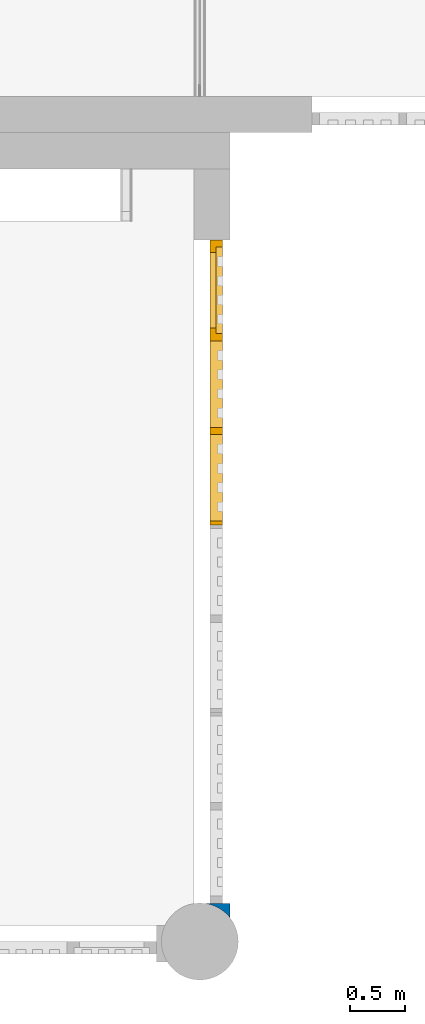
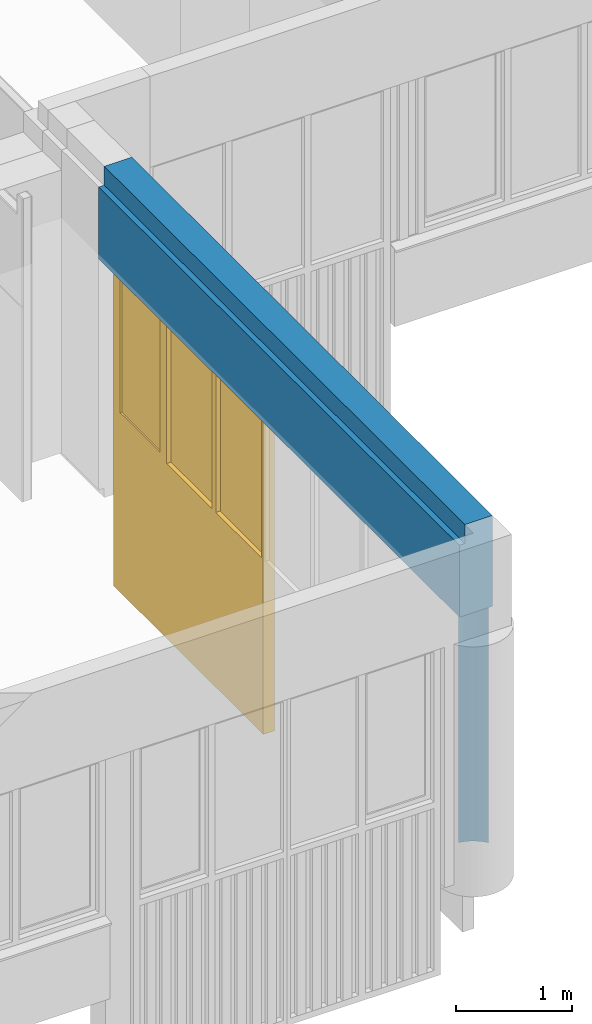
# One storey, part 43 of 99: 1 wall, 1 window, 3 openings.
"""IFC2X3 building model written with IfcOpenShell, lengths in millimetres."""

from ifc_helpers import new_model, entity, si_unit, converted_unit, derived_unit, money_unit, direction, frame, origin_with_axes, place, context, subcontext, project, spatial, open_shell, faceted_brep, surface_model, material, type_object, element, fill, save


model = new_model("IFC2X3")

# Units and contexts
model_context = context("Model", 3, precision=0.01, world=origin_with_axes(), true_north=direction((0.0, 1.0)))
body_context = subcontext(model_context, "Body", "Model", "MODEL_VIEW")
ifc_project = project(units=[si_unit("LENGTHUNIT", "METRE", prefix="MILLI"), si_unit("AREAUNIT", "SQUARE_METRE"), si_unit("VOLUMEUNIT", "CUBIC_METRE"), converted_unit("PLANEANGLEUNIT", "DEGREE", entity("IfcPlaneAngleMeasure", 0.0174532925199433), si_unit("PLANEANGLEUNIT", "RADIAN"), dimensions=[0, 0, 0, 0, 0, 0, 0]), money_unit("EUR"), converted_unit("TIMEUNIT", "Year", entity("IfcTimeMeasure", 31557600.0), si_unit("TIMEUNIT", "SECOND"), dimensions=[0, 0, 1, 0, 0, 0, 0]), si_unit("MASSUNIT", "GRAM", prefix="KILO"), si_unit("THERMODYNAMICTEMPERATUREUNIT", "DEGREE_CELSIUS"), si_unit("LUMINOUSINTENSITYUNIT", "LUMEN"), si_unit("ENERGYUNIT", "JOULE", prefix="MEGA"), derived_unit("THERMALCONDUCTANCEUNIT", [(si_unit("POWERUNIT", "WATT"), 1), (si_unit("LENGTHUNIT", "METRE"), -1), (si_unit("THERMODYNAMICTEMPERATUREUNIT", "KELVIN"), -1)]), derived_unit("SPECIFICHEATCAPACITYUNIT", [(si_unit("ENERGYUNIT", "JOULE"), 1), (si_unit("MASSUNIT", "GRAM", prefix="KILO"), -1), (si_unit("THERMODYNAMICTEMPERATUREUNIT", "KELVIN"), -1)]), derived_unit("MASSDENSITYUNIT", [(si_unit("MASSUNIT", "GRAM", prefix="KILO"), 1), (si_unit("VOLUMEUNIT", "CUBIC_METRE"), -1)])], contexts=[model_context])

# Site, building, storey
site_placement = place(None, origin_with_axes())
site = spatial("IfcSite", under=ifc_project, at=site_placement, Name="Site", CompositionType="ELEMENT")
building_placement = place(site_placement, origin_with_axes())
building = spatial("IfcBuilding", under=site, at=building_placement, Name="Naam gebouw", CompositionType="ELEMENT")
storey_placement = place(building_placement, frame((0.0, 0.0, 7650.0), z_axis=(0.0, 0.0, 1.0), x_axis=(1.0, 0.0, 0.0)))
storey = spatial("IfcBuildingStorey", under=building, at=storey_placement, Name="2e verdieping N", CompositionType="ELEMENT", Elevation=7650.0)

# Wall, openings, window
ifc_material = material(Name="ALG - CONSTRUCTIEF")
wall_type = type_object("IfcWallType", Name="ALG - CONSTRUCTIEF 330", PredefinedType="NOTDEFINED")
wall_placement = place(storey_placement, frame((32345.47026007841, 9685.94968985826, -99.99999999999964), z_axis=(0.0, 0.0, 1.0), x_axis=(0.0, -1.0, 0.0)))
wall = element("IfcWall", 1, at=wall_placement, inside=storey, type_object=wall_type, material=ifc_material, Name="_Wand-x", context=body_context, shape_type="Brep", body=[
    faceted_brep([(6039.999999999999, 107.6103989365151, 2540.000000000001), (6039.28855375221, 104.3399333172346, 2540.000000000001), (6035.726058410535, 54.52973992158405, 2540.000000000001), (6039.28855375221, 4.719546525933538, 2540.000000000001), (6039.999999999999, 1.449080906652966, 2540.000000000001), (6039.999999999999, 0.0, 2540.000000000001), (4299.928571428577, 0.0, 2540.000000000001), (-5.482205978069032e-05, 0.0, 2540.000000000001), (-5.482205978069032e-05, 329.9999999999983, 2540.000000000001), (6039.999999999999, 329.9999999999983, 2540.000000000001), (6049.903517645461, 153.1361348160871, 2540.000000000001), (6067.354860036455, 199.9249944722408, 2540.000000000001), (6091.287321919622, 243.7540260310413, 2540.000000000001), (6121.213707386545, 283.7309968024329, 2540.000000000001), (6156.524801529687, 319.0420909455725, 2540.000000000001), (6171.162854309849, 329.9999999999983, 2540.000000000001), (6240.280982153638, 329.9999999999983, 2540.000000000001), (6240.283294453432, 0.0, 2540.000000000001), (6040.314734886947, 0.002267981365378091, 2540.000000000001), (6039.999999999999, 1.446407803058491, 820.0000000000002), (6039.999999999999, 0.002267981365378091, 820.0000000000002), (6040.000582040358, 0.002267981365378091, 99.99999999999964), (6040.314735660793, 0.00226442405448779, 99.99999999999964), (6240.280982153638, 0.0, 3299.999999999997), (0.0, 0.0, 3299.999999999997), (-5.482206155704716e-05, 54.52973992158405, 3299.999999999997), (0.0, 54.52973992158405, 3500.0), (0.0, 329.9999999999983, 3500.0), (6171.16285430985, 329.9999999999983, 0.0), (6039.999999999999, 329.9999999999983, 0.0), (6240.280982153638, 329.9999999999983, 3500.0), (6039.999999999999, 259.999999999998, 0.0), (6039.999999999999, 146.002267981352, 0.0), (6039.999999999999, 146.002267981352, 820.0000000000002), (6039.999999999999, 107.6128887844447, 820.0000000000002), (6040.000541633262, 107.6128887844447, 0.0), (6049.903517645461, 153.1361348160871, 0.0), (6067.354860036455, 199.9249944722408, 0.0), (6091.287321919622, 243.7540260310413, 0.0), (6121.213707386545, 283.7309968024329, 0.0), (6156.524801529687, 319.0420909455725, 0.0), (6240.280982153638, 54.52973992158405, 3500.0), (6240.280982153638, 54.52973992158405, 3299.999999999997), (6040.000581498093, 1.446407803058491, 99.99999999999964)], [[[0, 1, 2, 3, 4, 5, 6, 7, 8, 9]], [[1, 0, 10, 11, 12, 13, 14, 15, 16, 17, 18, 4, 3, 2]], [[4, 19, 20, 5]], [[5, 20, 21, 22, 18, 17, 23, 24, 7, 6]], [[7, 24, 25, 26, 27, 8]], [[16, 15, 28, 29, 9, 8, 27, 30]], [[31, 32, 33, 34, 0, 9, 29]], [[0, 34, 35, 36, 10]], [[37, 11, 10, 36]], [[38, 12, 11, 37]], [[39, 13, 12, 38]], [[40, 14, 13, 39]], [[15, 14, 40, 28]], [[23, 17, 16, 30, 41, 42]], [[19, 4, 18, 22, 43]], [[20, 19, 43, 21]], [[21, 43, 22]], [[25, 24, 23, 42]], [[41, 26, 25, 42]], [[26, 41, 30, 27]], [[32, 31, 29, 28, 40, 39, 38, 37, 36, 35]], [[33, 32, 35, 34]]]),
])
opening_1_placement = place(wall_placement, frame((1296.678544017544, 0.0, -959.9999999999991), z_axis=(0.0, 0.0, 1.0), x_axis=(1.0, 0.0, 0.0)))
opening_1 = element("IfcOpeningElement", 2, at=opening_1_placement, cuts=wall, Name="_Merk-056", context=body_context, shape_type="Brep", body=[
    faceted_brep([(-1296.678598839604, 259.999999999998, -1060.0), (-1296.678598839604, 259.999999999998, 3500.0), (-1296.678598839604, 330.999999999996, 3500.0), (-1296.678598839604, 330.999999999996, -1060.0), (-1296.678598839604, -0.9999999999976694, -1060.0), (-1296.678598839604, -0.9999999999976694, 3500.0), (1296.678598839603, 259.999999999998, 3500.0), (1296.678598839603, 330.999999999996, 3500.0), (1296.678598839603, -0.9999999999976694, 3500.0), (1296.678598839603, 330.999999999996, -1060.0), (1296.678598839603, 259.999999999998, -1060.0), (1296.678598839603, -0.9999999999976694, -1060.0)], [[[0, 1, 2, 3]], [[1, 0, 4, 5]], [[6, 7, 2, 1, 5, 8]], [[7, 9, 3, 2]], [[0, 3, 9, 10, 11, 4]], [[5, 4, 11, 8]], [[6, 10, 9, 7]], [[10, 6, 8, 11]]]),
])
opening_2_placement = place(wall_placement, frame((3446.642857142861, 0.0, -959.9999999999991), z_axis=(0.0, 0.0, 1.0), x_axis=(1.0, 0.0, 0.0)))
element("IfcOpeningElement", 3, at=opening_2_placement, cuts=wall, Name="_Merk-057", context=body_context, shape_type="Brep", body=[
    faceted_brep([(-853.2857142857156, 259.999999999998, -1060.0), (-853.2857142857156, 259.999999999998, 3500.0), (-853.2857142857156, 330.999999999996, 3500.0), (-853.2857142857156, 330.999999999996, -1060.0), (-853.2857142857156, -0.9999999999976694, -1060.0), (-853.2857142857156, -0.9999999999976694, 3500.0), (853.2857142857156, 259.999999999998, 3500.0), (853.2857142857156, 330.999999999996, 3500.0), (853.2857142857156, -0.9999999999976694, 3500.0), (853.2857142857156, 330.999999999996, -1060.0), (853.2857142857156, 259.999999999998, -1060.0), (853.2857142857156, -0.9999999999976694, -1060.0)], [[[0, 1, 2, 3]], [[1, 0, 4, 5]], [[6, 7, 2, 1, 5, 8]], [[7, 9, 3, 2]], [[0, 3, 9, 10, 11, 4]], [[5, 4, 11, 8]], [[6, 10, 9, 7]], [[10, 6, 8, 11]]]),
])
opening_3_placement = place(wall_placement, frame((5169.964285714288, 0.0, -959.9999999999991), z_axis=(0.0, 0.0, 1.0), x_axis=(1.0, 0.0, 0.0)))
element("IfcOpeningElement", 4, at=opening_3_placement, cuts=wall, Name="_Merk-057", context=body_context, shape_type="Brep", body=[
    faceted_brep([(-870.0357142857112, 259.999999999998, -1060.0), (-870.0357142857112, 259.999999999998, 3500.0), (-870.0357142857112, 330.999999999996, 3500.0), (-870.0357142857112, 330.999999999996, -1060.0), (-870.0357142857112, -0.9999999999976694, -1060.0), (-870.0357142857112, -0.9999999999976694, 3500.0), (870.0357142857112, 259.999999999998, 3500.0), (870.0357142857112, 330.999999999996, 3500.0), (870.0357142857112, -0.9999999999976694, 3500.0), (870.0357142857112, 330.999999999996, -1060.0), (870.0357142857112, 259.999999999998, -1060.0), (870.0357142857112, -0.9999999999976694, -1060.0)], [[[0, 1, 2, 3]], [[1, 0, 4, 5]], [[6, 7, 2, 1, 5, 8]], [[7, 9, 3, 2]], [[0, 3, 9, 10, 11, 4]], [[5, 4, 11, 8]], [[6, 10, 9, 7]], [[10, 6, 8, 11]]]),
])
window_style = type_object("IfcWindowStyle", Name="R3 bl ol 26", ConstructionType="NOTDEFINED", OperationType="USERDEFINED", ParameterTakesPrecedence=False, Sizeable=False)
window_placement = place(opening_1_placement, frame((1296.678598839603, 0.0, 0.0), z_axis=(0.0, 0.0, 1.0), x_axis=(-1.0, 0.0, 0.0)))
window = element("IfcWindow", 5, at=window_placement, inside=storey, type_object=window_style, Name="_Merk-056", ObjectType="WINDOW", OverallHeight=3500.0, OverallWidth=2593.36, context=body_context, shape_type="SurfaceModel", body=[
    faceted_brep([(2526.357197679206, -200.0000000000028, 3433.0), (2526.357197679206, -260.0000000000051, 3433.0), (2593.357197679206, -260.0000000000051, 3433.0), (2593.357197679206, -146.0000000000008, 3433.0), (2543.357197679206, -146.0000000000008, 3433.0), (2543.357197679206, -200.0000000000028, 3433.0), (2526.357197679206, -200.0000000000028, 1847.000000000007), (2526.357197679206, -259.999999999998, 1847.000000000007), (2593.357197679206, -259.999999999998, 67.00000000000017), (2526.357197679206, -259.999999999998, 1780.000000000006), (2526.357197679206, -259.999999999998, 67.00000000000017), (2593.357197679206, -146.0000000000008, 67.00000000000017), (2543.357197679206, -146.0000000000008, 1830.000000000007), (2526.357197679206, -146.0000000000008, 67.00000000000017), (2526.357197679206, -146.0000000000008, 1780.000000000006), (2526.357197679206, -146.0000000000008, 1830.000000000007), (2543.357197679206, -200.0000000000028, 1830.000000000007), (2526.357197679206, -200.0000000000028, 1830.000000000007)], [[[0, 1, 2, 3, 4, 5]], [[6, 7, 1, 0]], [[8, 2, 1, 7, 9, 10]], [[11, 3, 2, 8]], [[12, 4, 3, 11, 13, 14, 15]], [[12, 16, 5, 4]], [[5, 16, 17, 6, 0]], [[17, 15, 14, 9, 7, 6]], [[14, 13, 10, 9]], [[13, 11, 8, 10]], [[15, 17, 16, 12]]]),
    faceted_brep([(1723.07146511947, -146.0000000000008, 3433.0), (1673.071465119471, -146.0000000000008, 3433.0), (1673.071465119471, -259.999999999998, 3433.0), (1740.071465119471, -259.999999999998, 3433.0), (1740.071465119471, -200.0000000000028, 3433.0), (1723.07146511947, -200.0000000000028, 3433.0), (1723.07146511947, -146.0000000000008, 1830.000000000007), (1740.071465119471, -146.0000000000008, 1830.000000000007), (1740.071465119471, -146.0000000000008, 1780.000000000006), (1740.071465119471, -146.0000000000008, 67.00000000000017), (1673.071465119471, -146.0000000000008, 67.00000000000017), (1673.071465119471, -146.0000000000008, 1780.000000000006), (1673.071465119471, -146.0000000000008, 1847.000000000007), (1673.071465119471, -259.999999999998, 1847.000000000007), (1673.071465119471, -259.999999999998, 1780.000000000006), (1673.071465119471, -259.999999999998, 67.00000000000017), (1740.071465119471, -259.999999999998, 67.00000000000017), (1740.071465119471, -259.999999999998, 1780.000000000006), (1740.071465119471, -259.999999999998, 1847.000000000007), (1740.071465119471, -200.0000000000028, 1847.000000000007), (1740.071465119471, -200.0000000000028, 1830.000000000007), (1723.07146511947, -200.0000000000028, 1830.000000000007)], [[[0, 1, 2, 3, 4, 5]], [[6, 7, 8, 9, 10, 11, 12, 1, 0]], [[1, 12, 13, 2]], [[14, 15, 16, 17, 18, 3, 2, 13]], [[4, 3, 18, 19]], [[19, 20, 21, 5, 4]], [[5, 21, 6, 0]], [[6, 21, 20, 7]], [[20, 19, 18, 17, 8, 7]], [[9, 8, 17, 16]], [[10, 9, 16, 15]], [[11, 10, 15, 14]], [[12, 11, 14, 13]]]),
    faceted_brep([(1740.071465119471, -200.0000000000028, 1847.000000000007), (1740.071465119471, -259.999999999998, 1847.000000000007), (2526.357197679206, -259.999999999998, 1847.000000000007), (2526.357197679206, -200.0000000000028, 1847.000000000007), (1740.071465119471, -200.0000000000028, 1830.000000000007), (1740.071465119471, -146.0000000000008, 1830.000000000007), (1740.071465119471, -146.0000000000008, 1780.000000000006), (1740.071465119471, -259.999999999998, 1780.000000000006), (2526.357197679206, -259.999999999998, 1780.000000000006), (2526.357197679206, -200.0000000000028, 1830.000000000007), (2526.357197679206, -146.0000000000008, 1780.000000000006), (2526.357197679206, -146.0000000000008, 1830.000000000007)], [[[0, 1, 2, 3]], [[4, 5, 6, 7, 1, 0]], [[7, 8, 2, 1]], [[9, 3, 2, 8, 10, 11]], [[9, 4, 0, 3]], [[5, 4, 9, 11]], [[11, 10, 6, 5]], [[6, 10, 8, 7]]]),
    faceted_brep([(1723.07146511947, -146.0000000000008, 3433.0), (1673.071465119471, -146.0000000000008, 3433.0), (886.7857325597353, -146.0000000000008, 3433.0), (819.785732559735, -146.0000000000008, 3433.0), (33.50000000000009, -146.0000000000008, 3433.0), (0.0, -146.0000000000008, 3433.0), (0.0, -146.0000000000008, 3500.0), (2593.357197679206, -146.0000000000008, 3500.0), (2593.357197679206, -146.0000000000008, 3433.0), (2543.357197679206, -146.0000000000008, 3433.0), (2543.357197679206, -146.0000000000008, 3449.999999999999), (1723.07146511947, -146.0000000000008, 3449.999999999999), (1723.07146511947, -200.0000000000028, 3433.0), (1740.071465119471, -200.0000000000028, 3433.0), (1740.071465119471, -259.999999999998, 3433.0), (1673.071465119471, -259.999999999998, 3433.0), (886.7857325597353, -259.999999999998, 3433.0), (819.785732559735, -259.999999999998, 3433.0), (33.50000000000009, -259.999999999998, 3433.0), (0.0, -259.999999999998, 3433.0), (0.0, -259.999999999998, 3500.0), (2593.357197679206, -260.0000000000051, 3500.0), (2593.357197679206, -260.0000000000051, 3433.0), (2543.357197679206, -200.0000000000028, 3433.0), (2526.357197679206, -260.0000000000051, 3433.0), (2526.357197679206, -200.0000000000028, 3433.0), (2543.357197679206, -200.0000000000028, 3449.999999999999), (1723.07146511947, -200.0000000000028, 3449.999999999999)], [[[0, 1, 2, 3, 4, 5, 6, 7, 8, 9, 10, 11]], [[12, 13, 14, 15, 1, 0]], [[2, 1, 15, 16]], [[3, 2, 16, 17]], [[4, 3, 17, 18]], [[5, 4, 18, 19]], [[6, 5, 19, 20]], [[7, 6, 20, 21]], [[8, 7, 21, 22]], [[23, 9, 8, 22, 24, 25]], [[9, 23, 26, 10]], [[10, 26, 27, 11]], [[11, 27, 12, 0]], [[25, 13, 12, 27, 26, 23]], [[25, 24, 14, 13]], [[16, 15, 14, 24, 22, 21, 20, 19, 18, 17]]]),
    faceted_brep([(33.50000000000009, -259.999999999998, 1780.000000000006), (33.50000000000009, -146.0000000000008, 1780.000000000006), (33.50000000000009, -146.0000000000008, 1847.000000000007), (33.50000000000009, -259.999999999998, 1847.000000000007), (33.50000000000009, -259.999999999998, 67.00000000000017), (33.50000000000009, -146.0000000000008, 67.00000000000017), (0.0, -146.0000000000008, 67.00000000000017), (0.0, -146.0000000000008, 3433.0), (33.50000000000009, -146.0000000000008, 3433.0), (33.50000000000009, -259.999999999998, 3433.0), (0.0, -259.999999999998, 3433.0), (0.0, -259.999999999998, 67.00000000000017)], [[[0, 1, 2, 3]], [[4, 5, 1, 0]], [[1, 5, 6, 7, 8, 2]], [[3, 2, 8, 9]], [[0, 3, 9, 10, 11, 4]], [[11, 6, 5, 4]], [[10, 7, 6, 11]], [[9, 8, 7, 10]]]),
    faceted_brep([(886.7857325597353, -259.999999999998, 3433.0), (886.7857325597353, -146.0000000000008, 3433.0), (819.785732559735, -146.0000000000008, 3433.0), (819.785732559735, -259.999999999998, 3433.0), (886.7857325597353, -259.999999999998, 1847.000000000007), (886.7857325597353, -146.0000000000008, 1847.000000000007), (886.7857325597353, -146.0000000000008, 1780.000000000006), (886.7857325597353, -146.0000000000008, 67.00000000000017), (819.785732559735, -146.0000000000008, 67.00000000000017), (819.785732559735, -146.0000000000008, 1780.000000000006), (819.785732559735, -146.0000000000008, 1847.000000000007), (819.785732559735, -259.999999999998, 1847.000000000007), (819.785732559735, -259.999999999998, 1780.000000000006), (819.785732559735, -259.999999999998, 67.00000000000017), (886.7857325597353, -259.999999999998, 67.00000000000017), (886.7857325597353, -259.999999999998, 1780.000000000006)], [[[0, 1, 2, 3]], [[4, 5, 1, 0]], [[1, 5, 6, 7, 8, 9, 10, 2]], [[3, 2, 10, 11]], [[0, 3, 11, 12, 13, 14, 15, 4]], [[15, 6, 5, 4]], [[14, 7, 6, 15]], [[13, 8, 7, 14]], [[12, 9, 8, 13]], [[11, 10, 9, 12]]]),
    faceted_brep([(1673.071465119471, -259.999999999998, 1780.000000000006), (1673.071465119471, -146.0000000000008, 1780.000000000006), (1673.071465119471, -146.0000000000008, 1847.000000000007), (1673.071465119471, -259.999999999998, 1847.000000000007), (886.7857325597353, -259.999999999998, 1780.000000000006), (886.7857325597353, -146.0000000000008, 1780.000000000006), (886.7857325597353, -146.0000000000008, 1847.000000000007), (886.7857325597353, -259.999999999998, 1847.000000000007)], [[[0, 1, 2, 3]], [[4, 5, 1, 0]], [[1, 5, 6, 2]], [[3, 2, 6, 7]], [[0, 3, 7, 4]], [[7, 6, 5, 4]]]),
    faceted_brep([(33.50000000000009, -259.999999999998, 1847.000000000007), (33.50000000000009, -146.0000000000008, 1847.000000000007), (33.50000000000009, -146.0000000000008, 1780.000000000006), (33.50000000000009, -259.999999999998, 1780.000000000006), (819.785732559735, -259.999999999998, 1847.000000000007), (819.785732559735, -146.0000000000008, 1847.000000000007), (819.785732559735, -146.0000000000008, 1780.000000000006), (819.785732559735, -259.999999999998, 1780.000000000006)], [[[0, 1, 2, 3]], [[4, 5, 1, 0]], [[1, 5, 6, 2]], [[3, 2, 6, 7]], [[0, 3, 7, 4]], [[7, 6, 5, 4]]]),
    faceted_brep([(33.50000000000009, -259.999999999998, 67.00000000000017), (33.50000000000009, -146.0000000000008, 67.00000000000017), (0.0, -146.0000000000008, 67.00000000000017), (0.0, -259.999999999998, 67.00000000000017), (819.785732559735, -259.999999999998, 67.00000000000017), (819.785732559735, -146.0000000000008, 67.00000000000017), (886.7857325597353, -146.0000000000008, 67.00000000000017), (1673.071465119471, -146.0000000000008, 67.00000000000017), (1740.071465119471, -146.0000000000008, 67.00000000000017), (2526.357197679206, -146.0000000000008, 67.00000000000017), (2593.357197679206, -146.0000000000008, 67.00000000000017), (2593.357197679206, -146.0000000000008, 0.0), (0.0, -146.0000000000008, 0.0), (0.0, -259.999999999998, 0.0), (2593.357197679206, -259.999999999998, 0.0), (2593.357197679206, -259.999999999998, 67.00000000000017), (2526.357197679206, -259.999999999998, 67.00000000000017), (1740.071465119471, -259.999999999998, 67.00000000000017), (1673.071465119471, -259.999999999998, 67.00000000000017), (886.7857325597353, -259.999999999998, 67.00000000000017)], [[[0, 1, 2, 3]], [[4, 5, 1, 0]], [[1, 5, 6, 7, 8, 9, 10, 11, 12, 2]], [[3, 2, 12, 13]], [[0, 3, 13, 14, 15, 16, 17, 18, 19, 4]], [[19, 6, 5, 4]], [[18, 7, 6, 19]], [[17, 8, 7, 18]], [[16, 9, 8, 17]], [[15, 10, 9, 16]], [[14, 11, 10, 15]], [[13, 12, 11, 14]]]),
    surface_model("IfcShellBasedSurfaceModel", [(33.50000000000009, -210.0000000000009, 1847.000000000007), (819.785732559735, -210.0000000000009, 1847.000000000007), (819.785732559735, -210.0000000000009, 3433.0), (33.50000000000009, -210.0000000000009, 3433.0)], [open_shell([[[0, 1, 2, 3]]])]),
    surface_model("IfcShellBasedSurfaceModel", [(33.50000000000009, -189.9999999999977, 1847.000000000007), (33.50000000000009, -189.9999999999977, 3433.0), (819.785732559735, -189.9999999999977, 3433.0), (819.785732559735, -189.9999999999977, 1847.000000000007)], [open_shell([[[0, 1, 2, 3]]])]),
    surface_model("IfcShellBasedSurfaceModel", [(886.7857325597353, -210.0000000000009, 1847.000000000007), (1673.071465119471, -210.0000000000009, 1847.000000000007), (1673.071465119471, -210.0000000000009, 3433.0), (886.7857325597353, -210.0000000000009, 3433.0)], [open_shell([[[0, 1, 2, 3]]])]),
    surface_model("IfcShellBasedSurfaceModel", [(886.7857325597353, -189.9999999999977, 1847.000000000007), (886.7857325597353, -190.0000000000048, 3433.0), (1673.071465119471, -190.0000000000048, 3433.0), (1673.071465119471, -189.9999999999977, 1847.000000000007)], [open_shell([[[0, 1, 2, 3]]])]),
    faceted_brep([(1790.07146511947, -200.0000000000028, 3383.000000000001), (1790.07146511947, -146.0000000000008, 3383.000000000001), (1723.07146511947, -146.0000000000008, 3383.000000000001), (1723.07146511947, -200.0000000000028, 3383.000000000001), (1790.07146511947, -200.0000000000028, 1897.000000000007), (1790.07146511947, -146.0000000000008, 1897.000000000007), (1723.07146511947, -146.0000000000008, 1897.000000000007), (1723.07146511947, -200.0000000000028, 1897.000000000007)], [[[0, 1, 2, 3]], [[4, 5, 1, 0]], [[1, 5, 6, 2]], [[3, 2, 6, 7]], [[0, 3, 7, 4]], [[7, 6, 5, 4]]]),
    faceted_brep([(2476.357197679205, -200.0000000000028, 1897.000000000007), (2476.357197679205, -146.0000000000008, 1897.000000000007), (2543.357197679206, -146.0000000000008, 1897.000000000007), (2543.357197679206, -200.0000000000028, 1897.000000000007), (2476.357197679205, -200.0000000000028, 3383.000000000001), (2476.357197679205, -146.0000000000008, 3383.000000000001), (2543.357197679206, -146.0000000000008, 3383.000000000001), (2543.357197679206, -200.0000000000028, 3383.000000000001)], [[[0, 1, 2, 3]], [[4, 5, 1, 0]], [[1, 5, 6, 2]], [[3, 2, 6, 7]], [[0, 3, 7, 4]], [[7, 6, 5, 4]]]),
    faceted_brep([(2543.357197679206, -200.0000000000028, 1830.000000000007), (2543.357197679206, -146.0000000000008, 1830.000000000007), (2543.357197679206, -146.0000000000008, 1897.000000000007), (2543.357197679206, -200.0000000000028, 1897.000000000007), (1723.07146511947, -200.0000000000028, 1830.000000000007), (1723.07146511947, -146.0000000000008, 1830.000000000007), (1723.07146511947, -146.0000000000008, 1897.000000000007), (1790.07146511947, -146.0000000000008, 1897.000000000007), (2476.357197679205, -146.0000000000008, 1897.000000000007), (2476.357197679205, -200.0000000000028, 1897.000000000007), (1790.07146511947, -200.0000000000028, 1897.000000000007), (1723.07146511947, -200.0000000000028, 1897.000000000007)], [[[0, 1, 2, 3]], [[4, 5, 1, 0]], [[1, 5, 6, 7, 8, 2]], [[3, 2, 8, 9]], [[0, 3, 9, 10, 11, 4]], [[11, 6, 5, 4]], [[10, 7, 6, 11]], [[9, 8, 7, 10]]]),
    faceted_brep([(1723.07146511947, -200.0000000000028, 3449.999999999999), (1723.07146511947, -146.0000000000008, 3449.999999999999), (1723.07146511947, -146.0000000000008, 3383.000000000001), (1723.07146511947, -200.0000000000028, 3383.000000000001), (2543.357197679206, -200.0000000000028, 3449.999999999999), (2543.357197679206, -146.0000000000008, 3449.999999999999), (2543.357197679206, -146.0000000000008, 3383.000000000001), (2476.357197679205, -146.0000000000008, 3383.000000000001), (1790.07146511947, -146.0000000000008, 3383.000000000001), (1790.07146511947, -200.0000000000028, 3383.000000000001), (2476.357197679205, -200.0000000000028, 3383.000000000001), (2543.357197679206, -200.0000000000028, 3383.000000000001)], [[[0, 1, 2, 3]], [[4, 5, 1, 0]], [[1, 5, 6, 7, 8, 2]], [[3, 2, 8, 9]], [[0, 3, 9, 10, 11, 4]], [[11, 6, 5, 4]], [[10, 7, 6, 11]], [[9, 8, 7, 10]]]),
    surface_model("IfcShellBasedSurfaceModel", [(1790.07146511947, -182.9999999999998, 1897.000000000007), (2476.357197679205, -182.9999999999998, 1897.000000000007), (2476.357197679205, -182.9999999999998, 3383.000000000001), (1790.07146511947, -182.9999999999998, 3383.000000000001)], [open_shell([[[0, 1, 2, 3]]])]),
    surface_model("IfcShellBasedSurfaceModel", [(1790.07146511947, -163.0000000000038, 1897.000000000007), (1790.07146511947, -163.0000000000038, 3383.000000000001), (2476.357197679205, -163.0000000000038, 3383.000000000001), (2476.357197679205, -163.0000000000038, 1897.000000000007)], [open_shell([[[0, 1, 2, 3]]])]),
    faceted_brep([(33.50000000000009, -200.0000000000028, 67.00000000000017), (33.50000000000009, -146.0000000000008, 67.00000000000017), (819.785732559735, -146.0000000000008, 67.00000000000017), (819.785732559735, -200.0000000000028, 67.00000000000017), (33.50000000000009, -200.0000000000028, 1780.000000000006), (33.50000000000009, -146.0000000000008, 1780.000000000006), (819.785732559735, -146.0000000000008, 1780.000000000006), (819.785732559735, -200.0000000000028, 1780.000000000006)], [[[0, 1, 2, 3]], [[4, 5, 1, 0]], [[1, 5, 6, 2]], [[3, 2, 6, 7]], [[0, 3, 7, 4]], [[7, 6, 5, 4]]]),
    faceted_brep([(886.7857325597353, -200.0000000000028, 67.00000000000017), (886.7857325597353, -146.0000000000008, 67.00000000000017), (1673.071465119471, -146.0000000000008, 67.00000000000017), (1673.071465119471, -200.0000000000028, 67.00000000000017), (886.7857325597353, -200.0000000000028, 1780.000000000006), (886.7857325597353, -146.0000000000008, 1780.000000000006), (1673.071465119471, -146.0000000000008, 1780.000000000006), (1673.071465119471, -200.0000000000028, 1780.000000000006)], [[[0, 1, 2, 3]], [[4, 5, 1, 0]], [[1, 5, 6, 2]], [[3, 2, 6, 7]], [[0, 3, 7, 4]], [[7, 6, 5, 4]]]),
    faceted_brep([(1740.071465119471, -200.0000000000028, 67.00000000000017), (1740.071465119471, -146.0000000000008, 67.00000000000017), (2526.357197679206, -146.0000000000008, 67.00000000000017), (2526.357197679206, -200.0000000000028, 67.00000000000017), (1740.071465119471, -200.0000000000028, 1780.000000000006), (1740.071465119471, -146.0000000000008, 1780.000000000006), (2526.357197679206, -146.0000000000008, 1780.000000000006), (2526.357197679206, -200.0000000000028, 1780.000000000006)], [[[0, 1, 2, 3]], [[4, 5, 1, 0]], [[1, 5, 6, 2]], [[3, 2, 6, 7]], [[0, 3, 7, 4]], [[7, 6, 5, 4]]]),
])
fill(opening_1, window)

save(model, "model.ifc")
